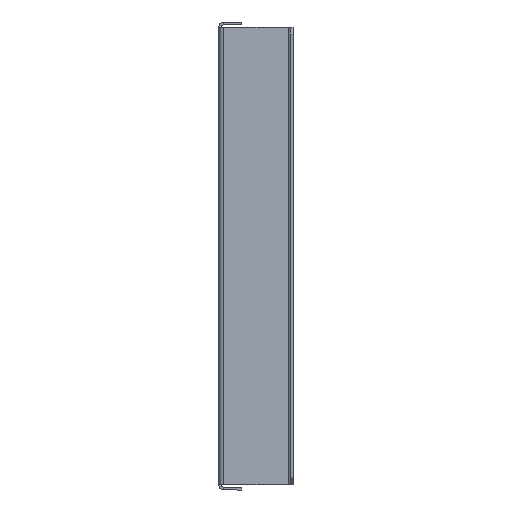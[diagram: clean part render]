
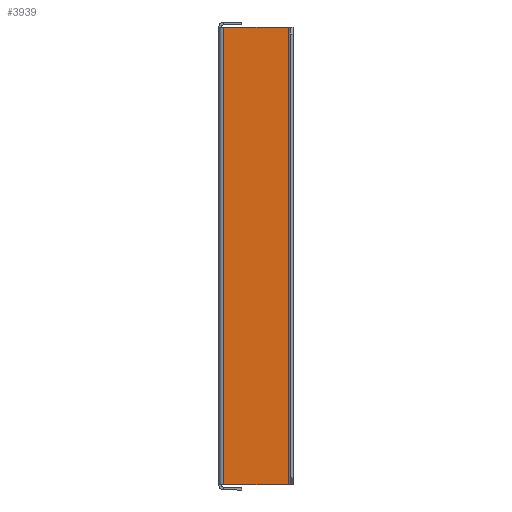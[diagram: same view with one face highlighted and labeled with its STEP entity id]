
A CAD part, left-side view. The second image highlights one B-rep face of the part: STEP entity #3939.
In plain terms, the highlighted planar face has unit normal (-1, 0, 0).
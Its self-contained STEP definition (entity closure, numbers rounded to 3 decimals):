
#6 = CARTESIAN_POINT ( 'NONE',  ( -141.2, 0., 99. ) ) ;
#167 = ORIENTED_EDGE ( 'NONE', *, *, #754, .F. ) ;
#198 = CARTESIAN_POINT ( 'NONE',  ( -141.2, -28.8, 99. ) ) ;
#293 = CARTESIAN_POINT ( 'NONE',  ( -141.2, -28.8, 99. ) ) ;
#324 = LINE ( 'NONE', #6, #1128 ) ;
#350 = ORIENTED_EDGE ( 'NONE', *, *, #819, .T. ) ;
#388 = VERTEX_POINT ( 'NONE', #1297 ) ;
#464 = FACE_OUTER_BOUND ( 'NONE', #3039, .T. ) ;
#594 = DIRECTION ( 'NONE',  ( 0., 0., -1. ) ) ;
#754 = EDGE_CURVE ( 'NONE', #1488, #3999, #324, .T. ) ;
#775 = CARTESIAN_POINT ( 'NONE',  ( -141.2, -1., 99. ) ) ;
#812 = ORIENTED_EDGE ( 'NONE', *, *, #1462, .T. ) ;
#819 = EDGE_CURVE ( 'NONE', #824, #388, #2744, .T. ) ;
#824 = VERTEX_POINT ( 'NONE', #2088 ) ;
#1080 = DIRECTION ( 'NONE',  ( 0., -1., 0. ) ) ;
#1128 = VECTOR ( 'NONE', #1347, 1000. ) ;
#1221 = VECTOR ( 'NONE', #594, 1000. ) ;
#1297 = CARTESIAN_POINT ( 'NONE',  ( -141.2, -28.8, -99. ) ) ;
#1347 = DIRECTION ( 'NONE',  ( 0., -1., 0. ) ) ;
#1446 = LINE ( 'NONE', #2756, #3848 ) ;
#1462 = EDGE_CURVE ( 'NONE', #1488, #824, #1446, .T. ) ;
#1488 = VERTEX_POINT ( 'NONE', #775 ) ;
#1839 = VECTOR ( 'NONE', #1080, 1000. ) ;
#2088 = CARTESIAN_POINT ( 'NONE',  ( -141.2, -1., -99. ) ) ;
#2144 = PLANE ( 'NONE',  #3293 ) ;
#2233 = CARTESIAN_POINT ( 'NONE',  ( -141.2, 0., 99. ) ) ;
#2476 = DIRECTION ( 'NONE',  ( 0., 0., -1. ) ) ;
#2494 = DIRECTION ( 'NONE',  ( 0., 0., -1. ) ) ;
#2744 = LINE ( 'NONE', #4061, #1839 ) ;
#2756 = CARTESIAN_POINT ( 'NONE',  ( -141.2, -1., 99. ) ) ;
#3039 = EDGE_LOOP ( 'NONE', ( #350, #3043, #167, #812 ) ) ;
#3043 = ORIENTED_EDGE ( 'NONE', *, *, #3799, .F. ) ;
#3293 = AXIS2_PLACEMENT_3D ( 'NONE', #2233, #3497, #2494 ) ;
#3497 = DIRECTION ( 'NONE',  ( 1., 0., 0. ) ) ;
#3799 = EDGE_CURVE ( 'NONE', #3999, #388, #3921, .T. ) ;
#3848 = VECTOR ( 'NONE', #2476, 1000. ) ;
#3921 = LINE ( 'NONE', #293, #1221 ) ;
#3939 = ADVANCED_FACE ( 'NONE', ( #464 ), #2144, .F. ) ;
#3999 = VERTEX_POINT ( 'NONE', #198 ) ;
#4061 = CARTESIAN_POINT ( 'NONE',  ( -141.2, 0., -99. ) ) ;
